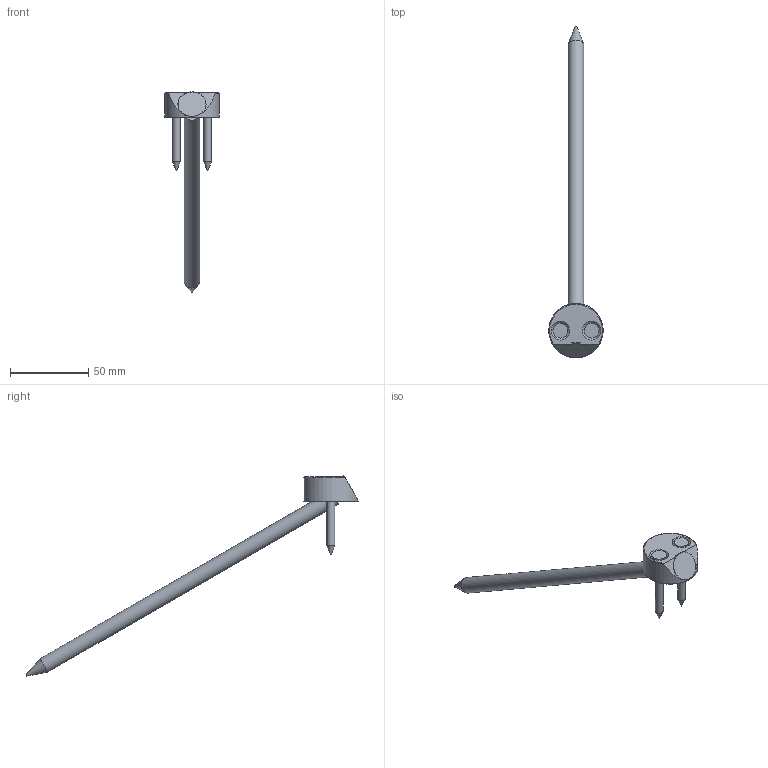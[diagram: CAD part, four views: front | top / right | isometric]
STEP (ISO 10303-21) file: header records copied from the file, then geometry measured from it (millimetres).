
FILE_DESCRIPTION(/* description */ ('Unknown'),/* implementation_level */ '2;1');
FILE_NAME(/* name */ 'T-Joint_D35_W30_2xSK5x50_1xSK10x240',/* time_stamp */ '2020-07-13T10:06:19+02:00',/* author */ ('Unknown'),/* organization */ ('Unknown'),/* preprocessor_version */ 'ST-DEVELOPER v16.7',/* originating_system */ 'DEX',/* authorisation */ $);
FILE_SCHEMA (('AUTOMOTIVE_DESIGN {1 0 10303 214 3 1 1}'));
Length unit declared in the file: millimetre
Products named in the file (4): T-Joint_D35_W30_2xSK5x50_1xSK10x240; T-Joint_D35_W30; SK Schraube 5x50_ohne_Gewinde; SK Schraube 10x240_ohne_Gewinde_22042020
Assembly tree (4 placements, depth 2):
  T-Joint_D35_W30_2xSK5x50_1xSK10x240
    T-Joint_D35_W30
    SK Schraube 5x50_ohne_Gewinde  x2
    SK Schraube 10x240_ohne_Gewinde_22042020
Bounding box: 34.79 x 212.61 x 128.22 mm (x, y, z)
Volume: 31084.3 mm3; surface area: 13708.6 mm2
Topology: 4 solids, 4 shells, 35 faces, 67 edges, 41 vertices
Faces by surface type: cylinder 12, plane 11, cone 9, torus 3
Full cylindrical faces by diameter (mm): 5 x2, 6.2 x2, 6.3 x1, 9.5 x2, 10 x2, 12.5 x1, 18 x1, 34.8 x1
Entity records: 738 total; most frequent: DIRECTION 128, CARTESIAN_POINT 111, ORIENTED_EDGE 68, AXIS2_PLACEMENT_3D 63, EDGE_LOOP 55, FACE_BOUND 55, EDGE_CURVE 34, VERTEX_POINT 31
